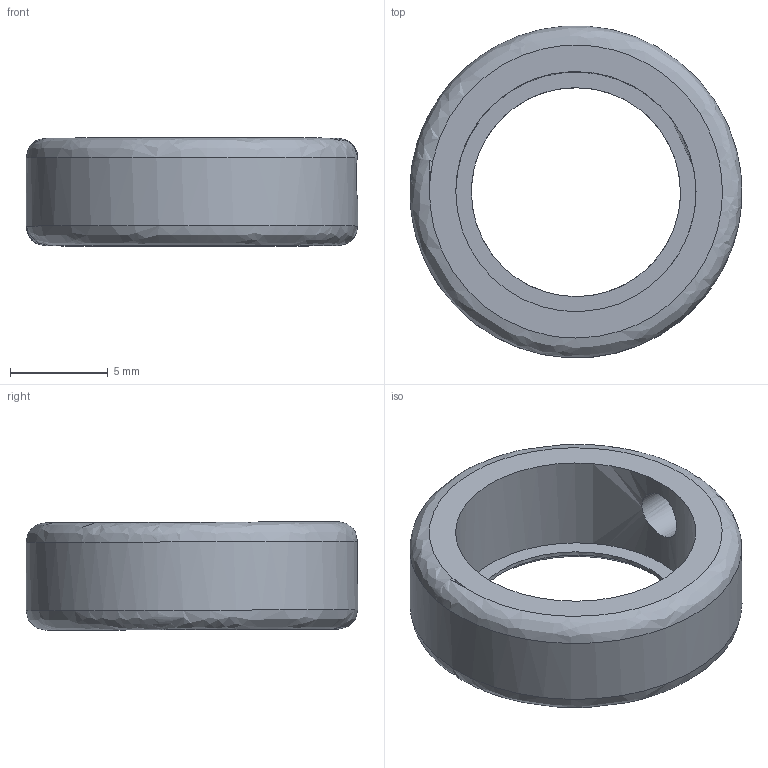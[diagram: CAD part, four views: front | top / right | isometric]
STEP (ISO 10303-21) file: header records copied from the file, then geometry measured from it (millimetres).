
FILE_DESCRIPTION (('STEP'), '1');
FILE_NAME ('D:\Work\Luxam projects\Product render\MicroLED Catalogue\1W\L-MTFH-10 Filter Holder\L-MTFH-10 Filter Holder.step', '2023-11-21T11:37:30', ('Unknown'), ('Unknown'), 'HarmonyWare STEP v2.1.9', 'Vectorworks', '');
FILE_SCHEMA (('CONFIG_CONTROL_DESIGN'));
Length unit declared in the file: millimetre
Bounding box: 16.99 x 16.98 x 5.56 mm (x, y, z)
Volume: 572.9 mm3; surface area: 735.3 mm2
Topology: 1 solids, 1 shells, 10 faces, 42 edges, 31 vertices
Faces by surface type: bspline 10
Entity records: 1234 total; most frequent: CARTESIAN_POINT 933, ORIENTED_EDGE 78, EDGE_CURVE 39, VERTEX_POINT 31, B_SPLINE_CURVE_WITH_KNOTS 17, EDGE_LOOP 14, FACE_OUTER_BOUND 10, ADVANCED_FACE 10
